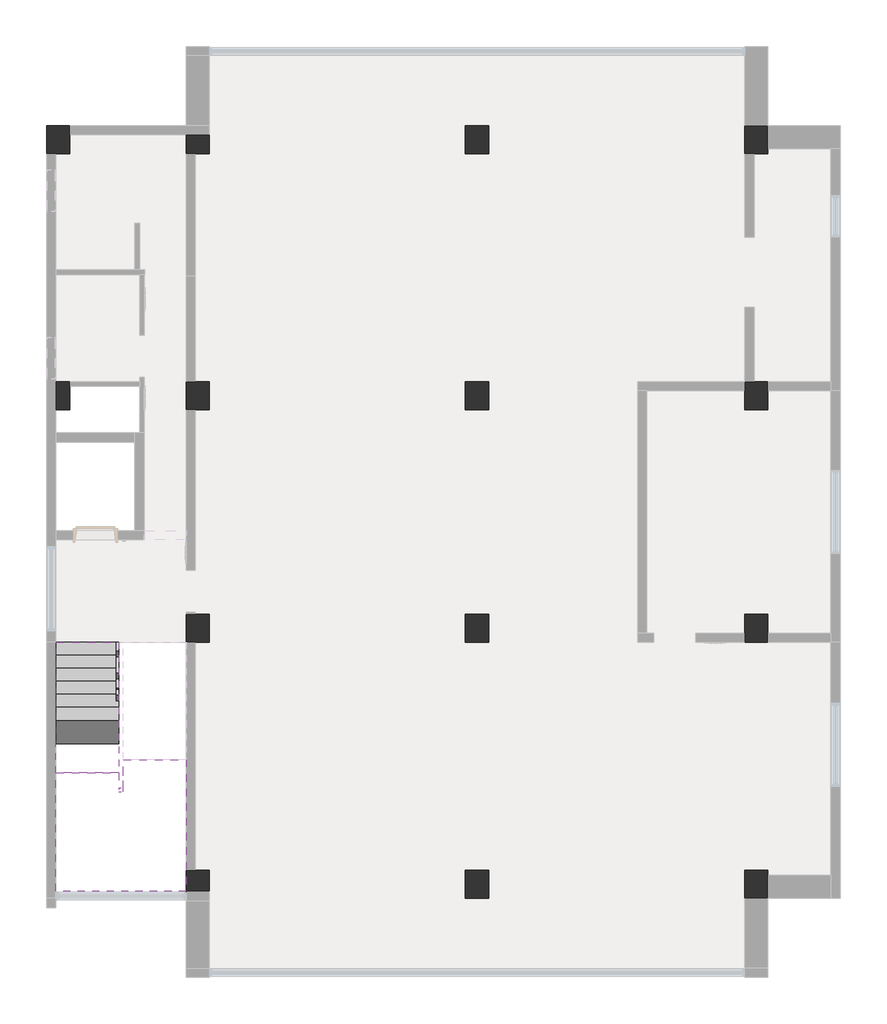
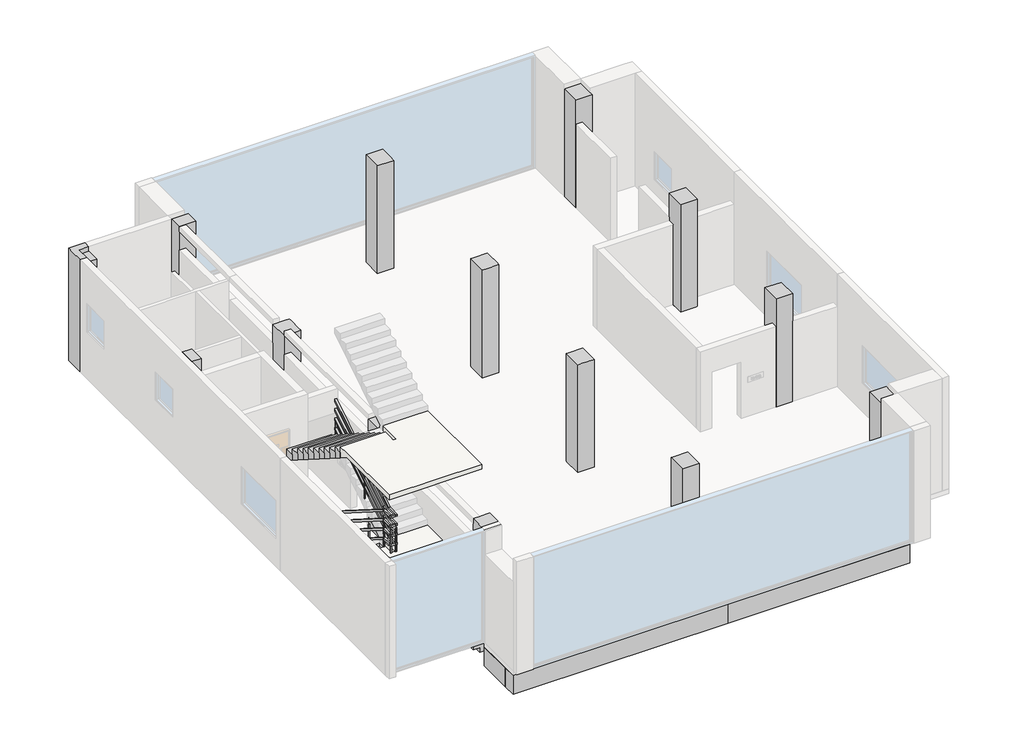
# One storey, part 2 of 3: 32 beams, 14 columns, 2 slabs, 2 stair flights, 1 railing.
"""IFC4 building model written with IfcOpenShell, lengths in millimetres."""

from ifc_helpers import new_model, si_unit, frame, origin, place, context, project, spatial, polyline, outline, extrude, faceted_brep, transform, mapped, element, save
from components import railing_8a41344b

model = new_model("IFC4")

# Units and contexts
model_context = context("Model", 3, world=origin())
ifc_project = project(units=[si_unit("LENGTHUNIT", "METRE", prefix="MILLI")], contexts=[model_context])

# Site, building, storey
site = spatial("IfcSite", under=ifc_project)
building = spatial("IfcBuilding", under=site)
storey = spatial("IfcBuildingStorey", under=building, Name="3층", Elevation=7500.0)

# Beams
placement = place(None, origin())
element("IfcBeam", 1, ObjectType="BM100-구조 보 : BM100-구조 보 400x600", at=placement, inside=storey, context=model_context, shape_type="Brep", body=[
    faceted_brep([(3250.0, 100.0, 7350.0), (3250.0, -300.0, 7350.0), (8750.0, -300.0, 7350.0), (8750.0, 100.0, 7350.0), (5963.2625647, 100.0, 7350.0), (5663.2625647, 100.0, 7350.0), (3250.0, -300.0, 6750.0), (8750.0, -300.0, 6750.0), (3250.0, 100.0, 6750.0), (5663.2625647, 100.0, 6750.0), (5963.2625647, 100.0, 6750.0), (8750.0, 100.0, 6750.0)], [[[0, 1, 2, 3, 4, 5]], [[1, 6, 7, 2]], [[6, 8, 9, 10, 11, 7]], [[8, 0, 5, 4, 3, 11, 10, 9]], [[0, 8, 6, 1]], [[3, 2, 7, 11]]]),
])
element("IfcBeam", 2, ObjectType="BM100-구조 보 : BM100-구조 보 400x600", at=placement, inside=storey, context=model_context, shape_type="Brep", body=[
    faceted_brep([(14750.0, -300.0, 7350.0), (14750.0, 100.0, 7350.0), (11963.2625647, 100.0, 7350.0), (11663.2625647, 100.0, 7350.0), (9250.0, 100.0, 7350.0), (9250.0, -300.0, 7350.0), (14750.0, -300.0, 6750.0), (9250.0, -300.0, 6750.0), (14750.0, 100.0, 6750.0), (9250.0, 100.0, 6750.0), (11663.2625647, 100.0, 6750.0), (11963.2625647, 100.0, 6750.0)], [[[0, 1, 2, 3, 4, 5]], [[6, 0, 5, 7]], [[8, 6, 7, 9, 10, 11]], [[1, 8, 11, 10, 9, 4, 3, 2]], [[1, 0, 6, 8]], [[5, 4, 9, 7]]]),
])
element("IfcBeam", 3, ObjectType="BM100-구조 보 : BM100-구조 보 400x600", at=placement, inside=storey, context=model_context, shape_type="Brep", body=[
    faceted_brep([(14750.0, 5300.0, 7350.0), (14750.0, 5700.0, 7350.0), (11963.2625647, 5700.0, 7350.0), (11663.2625647, 5700.0, 7350.0), (9250.0, 5700.0, 7350.0), (9250.0, 5300.0, 7350.0), (11663.2625647, 5300.0, 7350.0), (11963.2625647, 5300.0, 7350.0), (14750.0, 5300.0, 6750.0), (9250.0, 5300.0, 6750.0), (11663.2625647, 5300.0, 6750.0), (11963.2625647, 5300.0, 6750.0), (14750.0, 5700.0, 6750.0), (9250.0, 5700.0, 6750.0), (11663.2625647, 5700.0, 6750.0), (11963.2625647, 5700.0, 6750.0)], [[[0, 1, 2, 3, 4, 5, 6, 7]], [[8, 0, 7, 6, 5, 9, 10, 11]], [[12, 8, 11, 10, 9, 13, 14, 15]], [[1, 12, 15, 14, 13, 4, 3, 2]], [[1, 0, 8, 12]], [[5, 4, 13, 9]]]),
])
element("IfcBeam", 4, ObjectType="BM100-구조 보 : BM100-구조 보 400x600", at=placement, inside=storey, context=model_context, shape_type="Brep", body=[
    faceted_brep([(14750.0, 10300.0, 7350.0), (14750.0, 10700.0, 7350.0), (11963.2625647, 10700.0, 7350.0), (11663.2625647, 10700.0, 7350.0), (9250.0, 10700.0, 7350.0), (9250.0, 10300.0, 7350.0), (11663.2625647, 10300.0, 7350.0), (11963.2625647, 10300.0, 7350.0), (14750.0, 10300.0, 6750.0), (9250.0, 10300.0, 6750.0), (11663.2625647, 10300.0, 6750.0), (11963.2625647, 10300.0, 6750.0), (14750.0, 10700.0, 6750.0), (9250.0, 10700.0, 6750.0), (11663.2625647, 10700.0, 6750.0), (11963.2625647, 10700.0, 6750.0)], [[[0, 1, 2, 3, 4, 5, 6, 7]], [[8, 0, 7, 6, 5, 9, 10, 11]], [[12, 8, 11, 10, 9, 13, 14, 15]], [[1, 12, 15, 14, 13, 4, 3, 2]], [[1, 0, 8, 12]], [[5, 4, 13, 9]]]),
])
element("IfcBeam", 5, ObjectType="BM100-구조 보 : BM100-구조 보 400x600", at=placement, inside=storey, context=model_context, shape_type="Brep", body=[
    faceted_brep([(14750.0, 15900.0, 7350.0), (14750.0, 16300.0, 7350.0), (9250.0, 16300.0, 7350.0), (9250.0, 15900.0, 7350.0), (11663.2625647, 15900.0, 7350.0), (11963.2625647, 15900.0, 7350.0), (14750.0, 15900.0, 6750.0), (9250.0, 15900.0, 6750.0), (11663.2625647, 15900.0, 6750.0), (11963.2625647, 15900.0, 6750.0), (14750.0, 16300.0, 6750.0), (9250.0, 16300.0, 6750.0)], [[[0, 1, 2, 3, 4, 5]], [[6, 0, 5, 4, 3, 7, 8, 9]], [[10, 6, 9, 8, 7, 11]], [[1, 10, 11, 2]], [[1, 0, 6, 10]], [[3, 2, 11, 7]]]),
])
element("IfcBeam", 6, ObjectType="BM100-구조 보 : BM100-구조 보 400x600", at=placement, inside=storey, context=model_context, shape_type="SweptSolid", body=[
    extrude(outline(polyline([(15250.0, 5800.0), (14850.0, 5800.0), (14850.0, 10200.0), (15250.0, 10200.0), (15250.0, 5800.0)])), frame((0.0, 0.0, 6750.0), z_axis=(0.0, 0.0, 1.0), x_axis=(1.0, 0.0, 0.0)), (0.0, 0.0, 1.0), 600.0),
])
element("IfcBeam", 7, ObjectType="BM100-구조 보 : BM100-구조 보 400x600", at=placement, inside=storey, context=model_context, shape_type="SweptSolid", body=[
    extrude(outline(polyline([(14850.0, 5200.0), (15250.0, 5200.0), (15250.0, 300.0), (14850.0, 300.0), (14850.0, 5200.0)])), frame((0.0, 0.0, 6750.0), z_axis=(0.0, 0.0, 1.0), x_axis=(1.0, 0.0, 0.0)), (0.0, 0.0, 1.0), 600.0),
])
element("IfcBeam", 8, ObjectType="BM100-구조 보 : BM100-구조 보 300x600", at=placement, inside=storey, context=model_context, shape_type="SweptSolid", body=[
    extrude(outline(polyline([(11663.2625647, 5300.0), (11963.2625647, 5300.0), (11963.2625647, 100.0), (11663.2625647, 100.0), (11663.2625647, 5300.0)])), frame((0.0, 0.0, 6750.0), z_axis=(0.0, 0.0, 1.0), x_axis=(1.0, 0.0, 0.0)), (0.0, 0.0, 1.0), 600.0),
])
element("IfcBeam", 9, ObjectType="BM100-구조 보 : BM100-구조 보 300x600", at=placement, inside=storey, context=model_context, shape_type="SweptSolid", body=[
    extrude(outline(polyline([(11963.2625647, 5700.0), (11663.2625647, 5700.0), (11663.2625647, 10300.0), (11963.2625647, 10300.0), (11963.2625647, 5700.0)])), frame((0.0, 0.0, 6750.0), z_axis=(0.0, 0.0, 1.0), x_axis=(1.0, 0.0, 0.0)), (0.0, 0.0, 1.0), 600.0),
])
element("IfcBeam", 10, ObjectType="BM100-구조 보 : BM100-구조 보 300x600", at=placement, inside=storey, context=model_context, shape_type="SweptSolid", body=[
    extrude(outline(polyline([(11963.2625647, 10700.0), (11663.2625647, 10700.0), (11663.2625647, 15900.0), (11963.2625647, 15900.0), (11963.2625647, 10700.0)])), frame((0.0, 0.0, 6750.0), z_axis=(0.0, 0.0, 1.0), x_axis=(1.0, 0.0, 0.0)), (0.0, 0.0, 1.0), 600.0),
])
element("IfcBeam", 11, ObjectType="BM100-구조 보 : BM100-구조 보 400x600", at=placement, inside=storey, context=model_context, shape_type="SweptSolid", body=[
    extrude(outline(polyline([(9250.0, 300.0), (8850.0, 300.0), (8850.0, 5200.0), (9250.0, 5200.0), (9250.0, 300.0)])), frame((0.0, 0.0, 6750.0), z_axis=(0.0, 0.0, 1.0), x_axis=(1.0, 0.0, 0.0)), (0.0, 0.0, 1.0), 600.0),
])
element("IfcBeam", 12, ObjectType="BM100-구조 보 : BM100-구조 보 400x600", at=placement, inside=storey, context=model_context, shape_type="SweptSolid", body=[
    extrude(outline(polyline([(9250.0, 5800.0), (8850.0, 5800.0), (8850.0, 10200.0), (9250.0, 10200.0), (9250.0, 5800.0)])), frame((0.0, 0.0, 6750.0), z_axis=(0.0, 0.0, 1.0), x_axis=(1.0, 0.0, 0.0)), (0.0, 0.0, 1.0), 600.0),
])
element("IfcBeam", 13, ObjectType="BM100-구조 보 : BM100-구조 보 400x600", at=placement, inside=storey, context=model_context, shape_type="SweptSolid", body=[
    extrude(outline(polyline([(9250.0, 10800.0), (8850.0, 10800.0), (8850.0, 15700.0), (9250.0, 15700.0), (9250.0, 10800.0)])), frame((0.0, 0.0, 6750.0), z_axis=(0.0, 0.0, 1.0), x_axis=(1.0, 0.0, 0.0)), (0.0, 0.0, 1.0), 600.0),
])
element("IfcBeam", 14, ObjectType="BM100-구조 보 : BM100-구조 보 400x600", at=placement, inside=storey, context=model_context, shape_type="Brep", body=[
    faceted_brep([(3150.0, 10200.0, 7350.0), (2750.0, 10200.0, 7350.0), (2750.0, 7600.0, 7350.0), (2750.0, 7400.0, 7350.0), (2750.0, 5800.0, 7350.0), (3150.0, 5800.0, 7350.0), (3150.0, 10200.0, 6750.0), (3150.0, 5800.0, 6750.0), (2750.0, 10200.0, 6750.0), (2950.0, 10200.0, 6750.0), (2950.0, 5800.0, 6750.0), (2750.0, 5800.0, 6750.0)], [[[0, 1, 2, 3, 4, 5]], [[6, 0, 5, 7]], [[8, 9, 6, 7, 10, 11]], [[1, 8, 11, 4, 3, 2]], [[1, 0, 6, 9, 8]], [[5, 4, 11, 10, 7]]]),
])
element("IfcBeam", 15, ObjectType="BM100-구조 보 : BM100-구조 보 400x600", at=placement, inside=storey, context=model_context, shape_type="SweptSolid", body=[
    extrude(outline(polyline([(7350.0, 3150.0), (7350.0, 2750.0), (6900.0, 2750.0), (6900.0, 2950.0), (6750.0, 2950.0), (6750.0, 3150.0), (7350.0, 3150.0)])), frame((0.0, 300.0, 0.0), z_axis=(0.0, 1.0, 0.0), x_axis=(0.0, 0.0, 1.0)), (0.0, 0.0, 1.0), 4900.0),
])
element("IfcBeam", 16, ObjectType="BM100-구조 보 : BM100-구조 보 400x600", at=placement, inside=storey, context=model_context, shape_type="SweptSolid", body=[
    extrude(outline(polyline([(7350.0, 3150.0), (7350.0, 2750.0), (6900.0, 2750.0), (6900.0, 2950.0), (6750.0, 2950.0), (6750.0, 3150.0), (7350.0, 3150.0)])), frame((0.0, 10800.0, 0.0), z_axis=(0.0, 1.0, 0.0), x_axis=(0.0, 0.0, 1.0)), (0.0, 0.0, 1.0), 4900.0),
])
element("IfcBeam", 17, ObjectType="BM100-구조 보 : BM100-구조 보 400x600", at=placement, inside=storey, context=model_context, shape_type="Brep", body=[
    faceted_brep([(8750.0, 5300.0, 7350.0), (8750.0, 5700.0, 7350.0), (5963.2625647, 5700.0, 7350.0), (5663.2625647, 5700.0, 7350.0), (3250.0, 5700.0, 7350.0), (3250.0, 5300.0, 7350.0), (5663.2625647, 5300.0, 7350.0), (5963.2625647, 5300.0, 7350.0), (8750.0, 5300.0, 6750.0), (3250.0, 5300.0, 6750.0), (5663.2625647, 5300.0, 6750.0), (5963.2625647, 5300.0, 6750.0), (8750.0, 5700.0, 6750.0), (3250.0, 5700.0, 6750.0), (5663.2625647, 5700.0, 6750.0), (5963.2625647, 5700.0, 6750.0)], [[[0, 1, 2, 3, 4, 5, 6, 7]], [[8, 0, 7, 6, 5, 9, 10, 11]], [[12, 8, 11, 10, 9, 13, 14, 15]], [[1, 12, 15, 14, 13, 4, 3, 2]], [[1, 0, 8, 12]], [[5, 4, 13, 9]]]),
])
element("IfcBeam", 18, ObjectType="BM100-구조 보 : BM100-구조 보 400x600", at=placement, inside=storey, context=model_context, shape_type="Brep", body=[
    faceted_brep([(8750.0, 10300.0, 7350.0), (8750.0, 10700.0, 7350.0), (5963.2625647, 10700.0, 7350.0), (5663.2625647, 10700.0, 7350.0), (3250.0, 10700.0, 7350.0), (3250.0, 10300.0, 7350.0), (5663.2625647, 10300.0, 7350.0), (5963.2625647, 10300.0, 7350.0), (8750.0, 10300.0, 6750.0), (3250.0, 10300.0, 6750.0), (5663.2625647, 10300.0, 6750.0), (5963.2625647, 10300.0, 6750.0), (8750.0, 10700.0, 6750.0), (3250.0, 10700.0, 6750.0), (5663.2625647, 10700.0, 6750.0), (5963.2625647, 10700.0, 6750.0)], [[[0, 1, 2, 3, 4, 5, 6, 7]], [[8, 0, 7, 6, 5, 9, 10, 11]], [[12, 8, 11, 10, 9, 13, 14, 15]], [[1, 12, 15, 14, 13, 4, 3, 2]], [[1, 0, 8, 12]], [[5, 4, 13, 9]]]),
])
element("IfcBeam", 19, ObjectType="BM100-구조 보 : BM100-구조 보 300x600", at=placement, inside=storey, context=model_context, shape_type="SweptSolid", body=[
    extrude(outline(polyline([(5663.2625647, 5300.0), (5963.2625647, 5300.0), (5963.2625647, 100.0), (5663.2625647, 100.0), (5663.2625647, 5300.0)])), frame((0.0, 0.0, 6750.0), z_axis=(0.0, 0.0, 1.0), x_axis=(1.0, 0.0, 0.0)), (0.0, 0.0, 1.0), 600.0),
])
element("IfcBeam", 20, ObjectType="BM100-구조 보 : BM100-구조 보 300x600", at=placement, inside=storey, context=model_context, shape_type="SweptSolid", body=[
    extrude(outline(polyline([(5963.2625647, 5700.0), (5663.2625647, 5700.0), (5663.2625647, 10300.0), (5963.2625647, 10300.0), (5963.2625647, 5700.0)])), frame((0.0, 0.0, 6750.0), z_axis=(0.0, 0.0, 1.0), x_axis=(1.0, 0.0, 0.0)), (0.0, 0.0, 1.0), 600.0),
])
element("IfcBeam", 21, ObjectType="BM100-구조 보 : BM100-구조 보 300x600", at=placement, inside=storey, context=model_context, shape_type="SweptSolid", body=[
    extrude(outline(polyline([(5963.2625647, 10700.0), (5663.2625647, 10700.0), (5663.2625647, 15900.0), (5963.2625647, 15900.0), (5963.2625647, 10700.0)])), frame((0.0, 0.0, 6750.0), z_axis=(0.0, 0.0, 1.0), x_axis=(1.0, 0.0, 0.0)), (0.0, 0.0, 1.0), 600.0),
])
element("IfcBeam", 22, ObjectType="BM100-구조 보 : BM100-구조 보 400x600", at=placement, inside=storey, context=model_context, shape_type="Brep", body=[
    faceted_brep([(3250.0, 16300.0, 7350.0), (3250.0, 16100.0, 7350.0), (3250.0, 15900.0, 7350.0), (5663.2625647, 15900.0, 7350.0), (5963.2625647, 15900.0, 7350.0), (8750.0, 15900.0, 7350.0), (8750.0, 16300.0, 7350.0), (3250.0, 15900.0, 6750.0), (5663.2625647, 15900.0, 6750.0), (5963.2625647, 15900.0, 6750.0), (8750.0, 15900.0, 6750.0), (3250.0, 16300.0, 6750.0), (8750.0, 16300.0, 6750.0)], [[[0, 1, 2, 3, 4, 5, 6]], [[2, 7, 8, 9, 10, 5, 4, 3]], [[7, 11, 12, 10, 9, 8]], [[11, 0, 6, 12]], [[0, 11, 7, 2, 1]], [[6, 5, 10, 12]]]),
])
element("IfcBeam", 23, ObjectType="BM100-구조 보 : BM100-구조 보 400x600", at=placement, inside=storey, context=model_context, shape_type="SweptSolid", body=[
    extrude(outline(polyline([(14850.0, 15700.0), (15250.0, 15700.0), (15250.0, 10800.0), (14850.0, 10800.0), (14850.0, 15700.0)])), frame((0.0, 0.0, 6750.0), z_axis=(0.0, 0.0, 1.0), x_axis=(1.0, 0.0, 0.0)), (0.0, 0.0, 1.0), 600.0),
])
element("IfcBeam", 24, ObjectType="BM100-구조 보 : BM100-구조 보 400x600", at=placement, inside=storey, context=model_context, shape_type="SweptSolid", body=[
    extrude(outline(polyline([(3150.0, -1400.0), (2750.0, -1400.0), (2750.0, -300.0), (3150.0, -300.0), (3150.0, -1400.0)])), frame((0.0, 0.0, 6750.0), z_axis=(0.0, 0.0, 1.0), x_axis=(1.0, 0.0, 0.0)), (0.0, 0.0, 1.0), 600.0),
])
element("IfcBeam", 25, ObjectType="BM100-구조 보 : BM100-구조 보 400x600", at=placement, inside=storey, context=model_context, shape_type="Brep", body=[
    faceted_brep([(9250.0, -1800.0, 7350.0), (9250.0, -1400.0, 7350.0), (8850.0, -1400.0, 7350.0), (3150.0, -1400.0, 7350.0), (2750.0, -1400.0, 7350.0), (2750.0, -1800.0, 7350.0), (9250.0, -1800.0, 6750.0), (2750.0, -1800.0, 6750.0), (3250.0, -1800.0, 6750.0), (9250.0, -1400.0, 6750.0), (2750.0, -1400.0, 6750.0), (3150.0, -1400.0, 6750.0), (8850.0, -1400.0, 6750.0)], [[[0, 1, 2, 3, 4, 5]], [[6, 0, 5, 7, 8]], [[9, 6, 8, 7, 10, 11, 12]], [[1, 9, 12, 11, 10, 4, 3, 2]], [[1, 0, 6, 9]], [[5, 4, 10, 7]]]),
])
element("IfcBeam", 26, ObjectType="BM100-구조 보 : BM100-구조 보 400x600", at=placement, inside=storey, context=model_context, shape_type="SweptSolid", body=[
    extrude(outline(polyline([(9250.0, -1400.0), (8850.0, -1400.0), (8850.0, -300.0), (9250.0, -300.0), (9250.0, -1400.0)])), frame((0.0, 0.0, 6750.0), z_axis=(0.0, 0.0, 1.0), x_axis=(1.0, 0.0, 0.0)), (0.0, 0.0, 1.0), 600.0),
])
element("IfcBeam", 27, ObjectType="BM100-구조 보 : BM100-구조 보 400x600", at=placement, inside=storey, context=model_context, shape_type="SweptSolid", body=[
    extrude(outline(polyline([(9250.0, -1800.0), (9250.0, -1400.0), (14750.0, -1400.0), (14750.0, -1800.0), (9250.0, -1800.0)])), frame((0.0, 0.0, 6750.0), z_axis=(0.0, 0.0, 1.0), x_axis=(1.0, 0.0, 0.0)), (0.0, 0.0, 1.0), 600.0),
])
element("IfcBeam", 28, ObjectType="BM100-구조 보 : BM100-구조 보 400x600", at=placement, inside=storey, context=model_context, shape_type="SweptSolid", body=[
    extrude(outline(polyline([(15250.0, 5300.0), (15250.0, 5700.0), (16600.0, 5700.0), (16600.0, 5300.0), (15250.0, 5300.0)])), frame((0.0, 0.0, 6750.0), z_axis=(0.0, 0.0, 1.0), x_axis=(1.0, 0.0, 0.0)), (0.0, 0.0, 1.0), 600.0),
])
element("IfcBeam", 29, ObjectType="BM100-구조 보 : BM100-구조 보 400x600", at=placement, inside=storey, context=model_context, shape_type="SweptSolid", body=[
    extrude(outline(polyline([(15250.0, 10300.0), (15250.0, 10700.0), (16600.0, 10700.0), (16600.0, 10300.0), (15250.0, 10300.0)])), frame((0.0, 0.0, 6750.0), z_axis=(0.0, 0.0, 1.0), x_axis=(1.0, 0.0, 0.0)), (0.0, 0.0, 1.0), 600.0),
])
element("IfcBeam", 30, ObjectType="BM100-구조 보 : BM100-구조 보 400x600", at=placement, inside=storey, context=model_context, shape_type="Brep", body=[
    faceted_brep([(8850.0, 17800.0, 7350.0), (8850.0, 17400.0, 7350.0), (9250.0, 17400.0, 7350.0), (14750.0, 17400.0, 7350.0), (14750.0, 17800.0, 7350.0), (8850.0, 17400.0, 6750.0), (9250.0, 17400.0, 6750.0), (14750.0, 17400.0, 6750.0), (8850.0, 17800.0, 6750.0), (14750.0, 17800.0, 6750.0)], [[[0, 1, 2, 3, 4]], [[1, 5, 6, 7, 3, 2]], [[5, 8, 9, 7, 6]], [[8, 0, 4, 9]], [[1, 0, 8, 5]], [[4, 3, 7, 9]]]),
])
element("IfcBeam", 31, ObjectType="BM100-구조 보 : BM100-구조 보 400x600", at=placement, inside=storey, context=model_context, shape_type="SweptSolid", body=[
    extrude(outline(polyline([(9250.0, 16300.0), (8850.0, 16300.0), (8850.0, 17400.0), (9250.0, 17400.0), (9250.0, 16300.0)])), frame((0.0, 0.0, 6750.0), z_axis=(0.0, 0.0, 1.0), x_axis=(1.0, 0.0, 0.0)), (0.0, 0.0, 1.0), 600.0),
])
element("IfcBeam", 32, ObjectType="BM100-구조 보 : BM100-구조 보 400x600", at=placement, inside=storey, context=model_context, shape_type="SweptSolid", body=[
    extrude(outline(polyline([(8850.0, 17800.0), (8850.0, 17400.0), (3250.0, 17400.0), (3250.0, 17800.0), (8850.0, 17800.0)])), frame((0.0, 0.0, 6750.0), z_axis=(0.0, 0.0, 1.0), x_axis=(1.0, 0.0, 0.0)), (0.0, 0.0, 1.0), 600.0),
])

# Columns
element("IfcColumn", 33, ObjectType="CL100-구조 기둥 : CL100-구조 기둥_500x600", at=placement, inside=storey, context=model_context, shape_type="SweptSolid", body=[
    extrude(outline(polyline([(10800.0, 7500.0), (10200.0, 7500.0), (10200.0, 11100.0), (10700.0, 11100.0), (10700.0, 10950.0), (10800.0, 10950.0), (10800.0, 7500.0)])), frame((-50.0, 0.0, 0.0), z_axis=(1.0, 0.0, 0.0), x_axis=(0.0, 1.0, 0.0)), (0.0, 0.0, 1.0), 300.0),
])
element("IfcColumn", 34, ObjectType="CL100-구조 기둥 : CL100-구조 기둥_500x600", at=placement, inside=storey, context=model_context, shape_type="Brep", body=[
    faceted_brep([(2750.0, -300.0, 7500.0), (2750.0, 300.0, 7500.0), (2950.0, 300.0, 7500.0), (3250.0, 300.0, 7500.0), (3250.0, -300.0, 7500.0), (2750.0, -300.0, 11100.0), (2750.0, 300.0, 11100.0), (2750.0, 300.0, 10950.0), (2750.0, 300.0, 10350.0), (2750.0, -300.0, 10950.0), (2950.0, 300.0, 11100.0), (3250.0, 300.0, 11100.0), (3250.0, 300.0, 10950.0), (3250.0, -150.0, 11100.0), (3250.0, -300.0, 11100.0), (3250.0, -300.0, 10950.0)], [[[0, 1, 2, 3, 4]], [[5, 6, 7, 8, 1, 0, 9]], [[6, 10, 11, 12, 3, 2, 1, 8, 7]], [[11, 13, 14, 15, 4, 3, 12]], [[14, 5, 9, 0, 4, 15]], [[5, 14, 13, 11, 10, 6]]]),
])
element("IfcColumn", 35, ObjectType="CL100-구조 기둥 : CL100-구조 기둥_500x600", at=placement, inside=storey, context=model_context, shape_type="Brep", body=[
    faceted_brep([(8750.0, -300.0, 7500.0), (8750.0, 300.0, 7500.0), (9250.0, 300.0, 7500.0), (9250.0, -300.0, 7500.0), (8750.0, -300.0, 10350.0), (8750.0, -300.0, 10950.0), (8750.0, 100.0, 10950.0), (8750.0, 300.0, 10950.0), (8850.0, 300.0, 10950.0), (9250.0, 300.0, 10950.0), (9250.0, 300.0, 10350.0), (9250.0, 100.0, 10950.0), (9250.0, -300.0, 10950.0), (9250.0, -300.0, 10350.0)], [[[0, 1, 2, 3]], [[1, 0, 4, 5, 6, 7]], [[2, 1, 7, 8, 9, 10]], [[3, 2, 10, 9, 11, 12, 13]], [[0, 3, 13, 12, 5, 4]], [[7, 6, 5, 12, 11, 9, 8]]]),
])
element("IfcColumn", 36, ObjectType="CL100-구조 기둥 : CL100-구조 기둥_500x600", at=placement, inside=storey, context=model_context, shape_type="Brep", body=[
    faceted_brep([(2750.0, 5200.0, 7500.0), (2750.0, 5800.0, 7500.0), (2950.0, 5800.0, 7500.0), (3250.0, 5800.0, 7500.0), (3250.0, 5200.0, 7500.0), (2950.0, 5200.0, 7500.0), (2750.0, 5200.0, 10350.0), (2750.0, 5200.0, 10950.0), (2750.0, 5800.0, 10950.0), (2750.0, 5800.0, 10350.0), (3150.0, 5800.0, 10950.0), (3250.0, 5800.0, 10950.0), (3250.0, 5700.0, 10950.0), (3250.0, 5300.0, 10950.0), (3250.0, 5200.0, 10950.0), (3150.0, 5200.0, 10950.0)], [[[0, 1, 2, 3, 4, 5]], [[1, 0, 6, 7, 8, 9]], [[3, 2, 1, 9, 8, 10, 11]], [[4, 3, 11, 12, 13, 14]], [[0, 5, 4, 14, 15, 7, 6]], [[8, 7, 15, 14, 13, 12, 11, 10]]]),
])
element("IfcColumn", 37, ObjectType="CL100-구조 기둥 : CL100-구조 기둥_500x600", at=placement, inside=storey, context=model_context, shape_type="Brep", body=[
    faceted_brep([(2750.0, 10200.0, 7500.0), (2750.0, 10800.0, 7500.0), (3250.0, 10800.0, 7500.0), (3250.0, 10200.0, 7500.0), (2950.0, 10200.0, 7500.0), (2750.0, 10200.0, 10350.0), (2750.0, 10200.0, 10950.0), (2750.0, 10800.0, 10950.0), (2750.0, 10800.0, 10350.0), (3150.0, 10800.0, 10950.0), (3250.0, 10800.0, 10950.0), (3250.0, 10700.0, 10950.0), (3250.0, 10300.0, 10950.0), (3250.0, 10200.0, 10950.0), (3150.0, 10200.0, 10950.0)], [[[0, 1, 2, 3, 4]], [[1, 0, 5, 6, 7, 8]], [[2, 1, 8, 7, 9, 10]], [[3, 2, 10, 11, 12, 13]], [[0, 4, 3, 13, 14, 6, 5]], [[7, 6, 14, 13, 12, 11, 10, 9]]]),
])
element("IfcColumn", 38, ObjectType="CL100-구조 기둥 : CL100-구조 기둥_500x600", at=placement, inside=storey, context=model_context, shape_type="Brep", body=[
    faceted_brep([(8750.0, 5200.0, 7500.0), (8750.0, 5800.0, 7500.0), (9250.0, 5800.0, 7500.0), (9250.0, 5200.0, 7500.0), (8750.0, 5200.0, 10950.0), (8750.0, 5800.0, 10950.0), (8850.0, 5800.0, 10950.0), (9250.0, 5800.0, 10950.0), (9250.0, 5800.0, 10350.0), (9250.0, 5700.0, 10950.0), (9250.0, 5300.0, 10950.0), (9250.0, 5200.0, 10950.0), (9250.0, 5200.0, 10350.0), (8850.0, 5200.0, 10950.0)], [[[0, 1, 2, 3]], [[1, 0, 4, 5]], [[2, 1, 5, 6, 7, 8]], [[3, 2, 8, 7, 9, 10, 11, 12]], [[0, 3, 12, 11, 13, 4]], [[5, 4, 13, 11, 10, 9, 7, 6]]]),
])
element("IfcColumn", 39, ObjectType="CL100-구조 기둥 : CL100-구조 기둥_500x600", at=placement, inside=storey, context=model_context, shape_type="Brep", body=[
    faceted_brep([(8750.0, 10200.0, 7500.0), (8750.0, 10800.0, 7500.0), (9250.0, 10800.0, 7500.0), (9250.0, 10200.0, 7500.0), (8750.0, 10200.0, 10950.0), (8750.0, 10800.0, 10950.0), (8850.0, 10800.0, 10950.0), (9250.0, 10800.0, 10950.0), (9250.0, 10800.0, 10350.0), (9250.0, 10700.0, 10950.0), (9250.0, 10300.0, 10950.0), (9250.0, 10200.0, 10950.0), (9250.0, 10200.0, 10350.0), (8850.0, 10200.0, 10950.0)], [[[0, 1, 2, 3]], [[1, 0, 4, 5]], [[2, 1, 5, 6, 7, 8]], [[3, 2, 8, 7, 9, 10, 11, 12]], [[0, 3, 12, 11, 13, 4]], [[5, 4, 13, 11, 10, 9, 7, 6]]]),
])
element("IfcColumn", 40, ObjectType="CL100-구조 기둥 : CL100-구조 기둥_500x600", at=placement, inside=storey, context=model_context, shape_type="SweptSolid", body=[
    extrude(outline(polyline([(14750.0, 5200.0), (14750.0, 5800.0), (15250.0, 5800.0), (15250.0, 5200.0), (14750.0, 5200.0)])), frame((0.0, 0.0, 7500.0), z_axis=(0.0, 0.0, 1.0), x_axis=(1.0, 0.0, 0.0)), (0.0, 0.0, 1.0), 3450.0),
])
element("IfcColumn", 41, ObjectType="CL100-구조 기둥 : CL100-구조 기둥_500x600", at=placement, inside=storey, context=model_context, shape_type="Brep", body=[
    faceted_brep([(14750.0, 10200.0, 7500.0), (14750.0, 10600.0, 7500.0), (14750.0, 10800.0, 7500.0), (14950.0, 10800.0, 7500.0), (15250.0, 10800.0, 7500.0), (15250.0, 10200.0, 7500.0), (14750.0, 10200.0, 10950.0), (14750.0, 10800.0, 10950.0), (14750.0, 10800.0, 10182.0), (14750.0, 10800.0, 10068.0), (15250.0, 10800.0, 10950.0), (15250.0, 10200.0, 10950.0)], [[[0, 1, 2, 3, 4, 5]], [[2, 1, 0, 6, 7, 8, 9]], [[4, 3, 2, 9, 8, 7, 10]], [[5, 4, 10, 11]], [[0, 5, 11, 6]], [[7, 6, 11, 10]]]),
])
element("IfcColumn", 42, ObjectType="CL100-구조 기둥 : CL100-구조 기둥_500x600", at=placement, inside=storey, context=model_context, shape_type="Brep", body=[
    faceted_brep([(3250.0, 15700.0, 7500.0), (2750.0, 15700.0, 7500.0), (2750.0, 16100.0, 7500.0), (3250.0, 16100.0, 7500.0), (2750.0, 15700.0, 10350.0), (2750.0, 15700.0, 10950.0), (2750.0, 15700.0, 11100.0), (2750.0, 16100.0, 11100.0), (2750.0, 16100.0, 10950.0), (3250.0, 15700.0, 11100.0), (3250.0, 15700.0, 10950.0), (3250.0, 16100.0, 10950.0), (3250.0, 16100.0, 11100.0)], [[[0, 1, 2, 3]], [[1, 4, 5, 6, 7, 8, 2]], [[9, 10, 0, 3, 11, 12]], [[1, 0, 10, 9, 6, 5, 4]], [[6, 9, 12, 7]], [[3, 2, 8, 7, 12, 11]]]),
])
element("IfcColumn", 43, ObjectType="CL100-구조 기둥 : CL100-구조 기둥_500x600", at=placement, inside=storey, context=model_context, shape_type="Brep", body=[
    faceted_brep([(8750.0, 15700.0, 7500.0), (8750.0, 16300.0, 7500.0), (9250.0, 16300.0, 7500.0), (9250.0, 15700.0, 7500.0), (8750.0, 15700.0, 10950.0), (8750.0, 15900.0, 10950.0), (8750.0, 16300.0, 10950.0), (8750.0, 16300.0, 10350.0), (9250.0, 16300.0, 10950.0), (9250.0, 16300.0, 10350.0), (9250.0, 15900.0, 10950.0), (9250.0, 15700.0, 10950.0), (9250.0, 15700.0, 10350.0), (8850.0, 15700.0, 10950.0)], [[[0, 1, 2, 3]], [[1, 0, 4, 5, 6, 7]], [[2, 1, 7, 6, 8, 9]], [[3, 2, 9, 8, 10, 11, 12]], [[0, 3, 12, 11, 13, 4]], [[6, 5, 4, 13, 11, 10, 8]]]),
])
element("IfcColumn", 44, ObjectType="CL100-구조 기둥 : CL100-구조 기둥_500x600", at=placement, inside=storey, context=model_context, shape_type="Brep", body=[
    faceted_brep([(14750.0, 15700.0, 7500.0), (14750.0, 16300.0, 7500.0), (15250.0, 16300.0, 7500.0), (15250.0, 15800.0, 7500.0), (15250.0, 15700.0, 7500.0), (14950.0, 15700.0, 7500.0), (14750.0, 15700.0, 10182.0), (14750.0, 15700.0, 10950.0), (14750.0, 16300.0, 10950.0), (15250.0, 16300.0, 10950.0), (15250.0, 15700.0, 10950.0)], [[[0, 1, 2, 3, 4, 5]], [[1, 0, 6, 7, 8]], [[2, 1, 8, 9]], [[4, 3, 2, 9, 10]], [[0, 5, 4, 10, 7, 6]], [[8, 7, 10, 9]]]),
])
element("IfcColumn", 45, ObjectType="CL100-구조 기둥 : CL100-구조 기둥_500x600", at=placement, inside=storey, context=model_context, shape_type="Brep", body=[
    faceted_brep([(-250.0, 15700.0, 7500.0), (-250.0, 16300.0, 7500.0), (250.0, 16300.0, 7500.0), (250.0, 16100.0, 7500.0), (250.0, 15700.0, 7500.0), (-50.0, 15700.0, 7500.0), (-250.0, 15700.0, 11100.0), (-250.0, 16100.0, 11100.0), (-250.0, 16300.0, 11100.0), (250.0, 16300.0, 11100.0), (250.0, 16100.0, 11100.0), (250.0, 16100.0, 10950.0), (250.0, 15700.0, 10950.0), (-50.0, 15700.0, 10950.0), (-50.0, 15700.0, 11100.0), (-50.0, 16100.0, 11100.0), (-50.0, 16100.0, 10950.0)], [[[0, 1, 2, 3, 4, 5]], [[1, 0, 6, 7, 8]], [[2, 1, 8, 9]], [[4, 3, 2, 9, 10, 11, 12]], [[0, 5, 4, 12, 13, 14, 6]], [[8, 7, 6, 14, 15, 10, 9]], [[11, 16, 13, 12]], [[16, 15, 14, 13]], [[15, 16, 11, 10]]]),
])
element("IfcColumn", 46, ObjectType="CL100-구조 기둥 : CL100-구조 기둥_500x600", at=placement, inside=storey, context=model_context, shape_type="Brep", body=[
    faceted_brep([(14750.0, -300.0, 7500.0), (14750.0, 200.0, 7500.0), (14750.0, 300.0, 7500.0), (15250.0, 300.0, 7500.0), (15250.0, 200.0, 7500.0), (15250.0, -300.0, 7500.0), (14750.0, -300.0, 10950.0), (14750.0, 300.0, 10950.0), (15250.0, 300.0, 10950.0), (15250.0, -300.0, 10950.0)], [[[0, 1, 2, 3, 4, 5]], [[2, 1, 0, 6, 7]], [[3, 2, 7, 8]], [[5, 4, 3, 8, 9]], [[0, 5, 9, 6]], [[7, 6, 9, 8]]]),
])

# Railing
railing_shape = railing_8a41344b(model_context)
element("IfcRailing", 47, ObjectType="RL780-금속재 난간", at=placement, inside=storey, context=model_context, shape_type="MappedRepresentation", body=[
    mapped(railing_shape, transform((0.0, 0.0, 0.0), x_axis=(1.0, 0.0, 0.0), y_axis=(0.0, 1.0, 0.0), z_axis=(0.0, 0.0, 1.0))),
])

# Slabs
element("IfcSlab", 48, ObjectType="일체형 계단참 150mm_철근콘크리트", at=placement, inside=storey, context=model_context, shape_type="Brep", body=[
    faceted_brep([(1300.2430136, 2400.0, 9450.0), (-50.0, 2400.0, 9450.0), (-50.0, 2076.5081266, 9450.0), (-50.0, -150.0, 9450.0), (2750.0, -150.0, 9450.0), (2750.0, 2680.0, 9450.0), (1400.2430136, 2680.0, 9450.0), (1400.2430136, 2071.4869752, 9450.0), (1300.2430136, 2071.4869752, 9450.0), (1300.2430136, 2076.5081266, 9450.0), (-50.0, 2400.0, 9272.7272727), (-50.0, 2400.0, 9095.1918334), (-50.0, 2076.5081266, 9300.0), (-50.0, -150.0, 9300.0), (2750.0, -150.0, 9300.0), (1400.2430136, 2680.0, 9300.0), (1400.2430136, 2071.4869752, 9300.0), (1300.2430136, 2071.4869752, 9300.0), (1300.2430136, 2076.5081266, 9300.0), (2750.0, 2680.0, 9300.0), (1300.2430136, 2400.0, 9095.1918334), (1300.2430136, 2400.0, 9272.7272727)], [[[0, 1, 2, 3, 4, 5, 6, 7, 8, 9]], [[1, 10, 11, 12, 13, 3, 2]], [[4, 3, 13, 14]], [[7, 6, 15, 16]], [[8, 7, 16, 17]], [[12, 18, 17, 16, 15, 19, 14, 13]], [[18, 12, 11, 20]], [[20, 21, 0, 9, 8, 17, 18]], [[1, 0, 21, 20, 11, 10]], [[5, 4, 14, 19]], [[6, 5, 19, 15]]]),
])
element("IfcSlab", 49, ObjectType="일체형 계단참 150mm_철근콘크리트", at=placement, inside=storey, context=model_context, shape_type="Brep", body=[
    faceted_brep([(1300.2430136, 2400.0, 13104.5454545), (-50.0, 2400.0, 13104.5454545), (-50.0, 2076.5081266, 13104.5454545), (-50.0, -150.0, 13104.5454545), (2750.0, -150.0, 13104.5454545), (2750.0, 2680.0, 13104.5454545), (1400.2430136, 2680.0, 13104.5454545), (1400.2430136, 1987.8980432, 13104.5454545), (1300.2430136, 1987.8980432, 13104.5454545), (1300.2430136, 2076.5081266, 13104.5454545), (-50.0, 2400.0, 12927.2727273), (-50.0, 2400.0, 12749.7372879), (-50.0, 2076.5081266, 12954.5454545), (-50.0, -150.0, 12954.5454545), (2750.0, -150.0, 12954.5454545), (1400.2430136, 2680.0, 12954.5454545), (1400.2430136, 1987.8980432, 12954.5454545), (1300.2430136, 1987.8980432, 12954.5454545), (1300.2430136, 2076.5081266, 12954.5454545), (2750.0, 2680.0, 12954.5454545), (1300.2430136, 2400.0, 12749.7372879), (1300.2430136, 2400.0, 12927.2727273)], [[[0, 1, 2, 3, 4, 5, 6, 7, 8, 9]], [[1, 10, 11, 12, 13, 3, 2]], [[4, 3, 13, 14]], [[7, 6, 15, 16]], [[8, 7, 16, 17]], [[12, 18, 17, 16, 15, 19, 14, 13]], [[18, 12, 11, 20]], [[20, 21, 0, 9, 8, 17, 18]], [[1, 0, 21, 20, 11, 10]], [[5, 4, 14, 19]], [[6, 5, 19, 15]]]),
])

# Stair flights
element("IfcStairFlight", 50, ObjectType="일체형 계단진행 150mm_철근콘크리트", at=placement, inside=storey, context=model_context, shape_type="Brep", body=[
    faceted_brep([(1300.2430136, 4920.0, 7677.2727273), (1300.2430136, 5200.0, 7677.2727273), (-50.0, 5200.0, 7677.2727273), (-50.0, 4920.0, 7677.2727273), (1300.2430136, 4920.0, 7500.0), (1300.2430136, 5200.0, 7500.0), (-50.0, 5200.0, 7500.0), (-50.0, 4920.0, 7500.0), (1300.2430136, 4640.0, 7854.5454545), (1300.2430136, 4920.0, 7854.5454545), (-50.0, 4920.0, 7854.5454545), (-50.0, 4640.0, 7854.5454545), (1300.2430136, 4640.0, 7677.0100152), (1300.2430136, 4919.5850497, 7500.0), (-50.0, 4919.5850497, 7500.0), (-50.0, 4640.0, 7677.0100152), (1300.2430136, 4360.0, 8031.8181818), (1300.2430136, 4640.0, 8031.8181818), (-50.0, 4640.0, 8031.8181818), (-50.0, 4360.0, 8031.8181818), (1300.2430136, 4360.0, 7854.2827425), (-50.0, 4360.0, 7854.2827425), (1300.2430136, 4080.0, 8209.0909091), (1300.2430136, 4360.0, 8209.0909091), (-50.0, 4360.0, 8209.0909091), (-50.0, 4080.0, 8209.0909091), (1300.2430136, 4080.0, 8031.5554697), (-50.0, 4080.0, 8031.5554697), (1300.2430136, 3800.0, 8386.3636364), (1300.2430136, 4080.0, 8386.3636364), (-50.0, 4080.0, 8386.3636364), (-50.0, 3800.0, 8386.3636364), (1300.2430136, 3800.0, 8208.828197), (-50.0, 3800.0, 8208.828197), (1300.2430136, 3520.0, 8563.6363636), (1300.2430136, 3800.0, 8563.6363636), (-50.0, 3800.0, 8563.6363636), (-50.0, 3520.0, 8563.6363636), (1300.2430136, 3520.0, 8386.1009243), (-50.0, 3520.0, 8386.1009243), (1300.2430136, 3240.0, 8740.9090909), (1300.2430136, 3520.0, 8740.9090909), (-50.0, 3520.0, 8740.9090909), (-50.0, 3240.0, 8740.9090909), (1300.2430136, 3240.0, 8563.3736516), (-50.0, 3240.0, 8563.3736516), (1300.2430136, 2960.0, 8918.1818182), (1300.2430136, 3240.0, 8918.1818182), (-50.0, 3240.0, 8918.1818182), (-50.0, 2960.0, 8918.1818182), (1300.2430136, 2960.0, 8740.6463788), (-50.0, 2960.0, 8740.6463788), (1300.2430136, 2680.0, 9095.4545455), (1300.2430136, 2960.0, 9095.4545455), (-50.0, 2960.0, 9095.4545455), (-50.0, 2680.0, 9095.4545455), (1300.2430136, 2680.0, 8917.9191061), (-50.0, 2680.0, 8917.9191061), (1300.2430136, 2400.0, 9272.7272727), (1300.2430136, 2680.0, 9272.7272727), (-50.0, 2680.0, 9272.7272727), (-50.0, 2400.0, 9272.7272727), (1300.2430136, 2400.0, 9095.1918334), (-50.0, 2400.0, 9095.1918334)], [[[0, 1, 2, 3]], [[1, 0, 4, 5]], [[2, 1, 5, 6]], [[3, 2, 6, 7]], [[8, 9, 10, 11]], [[4, 0, 9, 8, 12, 13]], [[0, 3, 10, 9]], [[3, 7, 14, 15, 11, 10]], [[16, 17, 18, 19]], [[17, 16, 20, 12, 8]], [[8, 11, 18, 17]], [[19, 18, 11, 15, 21]], [[22, 23, 24, 25]], [[23, 22, 26, 20, 16]], [[16, 19, 24, 23]], [[25, 24, 19, 21, 27]], [[28, 29, 30, 31]], [[29, 28, 32, 26, 22]], [[22, 25, 30, 29]], [[31, 30, 25, 27, 33]], [[34, 35, 36, 37]], [[35, 34, 38, 32, 28]], [[28, 31, 36, 35]], [[37, 36, 31, 33, 39]], [[40, 41, 42, 43]], [[41, 40, 44, 38, 34]], [[34, 37, 42, 41]], [[43, 42, 37, 39, 45]], [[46, 47, 48, 49]], [[47, 46, 50, 44, 40]], [[40, 43, 48, 47]], [[49, 48, 43, 45, 51]], [[52, 53, 54, 55]], [[53, 52, 56, 50, 46]], [[46, 49, 54, 53]], [[55, 54, 49, 51, 57]], [[58, 59, 60, 61]], [[59, 58, 62, 56, 52]], [[52, 55, 60, 59]], [[61, 60, 55, 57, 63]], [[58, 61, 63, 62]], [[5, 4, 13, 14, 7, 6]], [[14, 13, 12, 20, 26, 32, 38, 44, 50, 56, 62, 63, 57, 51, 45, 39, 33, 27, 21, 15]]]),
])
element("IfcStairFlight", 51, ObjectType="일체형 계단진행 150mm_철근콘크리트", at=placement, inside=storey, context=model_context, shape_type="Brep", body=[
    faceted_brep([(1300.2430136, 4920.0, 11331.8181818), (1300.2430136, 5200.0, 11331.8181818), (-50.0, 5200.0, 11331.8181818), (-50.0, 4920.0, 11331.8181818), (1300.2430136, 4920.0, 11154.2827425), (1300.2430136, 5200.0, 10977.0100152), (-50.0, 5200.0, 10977.0100152), (-50.0, 4920.0, 11154.2827425), (1300.2430136, 4640.0, 11509.0909091), (1300.2430136, 4920.0, 11509.0909091), (-50.0, 4920.0, 11509.0909091), (-50.0, 4640.0, 11509.0909091), (1300.2430136, 4640.0, 11331.5554697), (-50.0, 4640.0, 11331.5554697), (1300.2430136, 4360.0, 11686.3636364), (1300.2430136, 4640.0, 11686.3636364), (-50.0, 4640.0, 11686.3636364), (-50.0, 4360.0, 11686.3636364), (1300.2430136, 4360.0, 11508.828197), (-50.0, 4360.0, 11508.828197), (1300.2430136, 4080.0, 11863.6363636), (1300.2430136, 4360.0, 11863.6363636), (-50.0, 4360.0, 11863.6363636), (-50.0, 4080.0, 11863.6363636), (1300.2430136, 4080.0, 11686.1009243), (-50.0, 4080.0, 11686.1009243), (1300.2430136, 3800.0, 12040.9090909), (1300.2430136, 4080.0, 12040.9090909), (-50.0, 4080.0, 12040.9090909), (-50.0, 3800.0, 12040.9090909), (1300.2430136, 3800.0, 11863.3736516), (-50.0, 3800.0, 11863.3736516), (1300.2430136, 3520.0, 12218.1818182), (1300.2430136, 3800.0, 12218.1818182), (-50.0, 3800.0, 12218.1818182), (-50.0, 3520.0, 12218.1818182), (1300.2430136, 3520.0, 12040.6463788), (-50.0, 3520.0, 12040.6463788), (1300.2430136, 3240.0, 12395.4545455), (1300.2430136, 3520.0, 12395.4545455), (-50.0, 3520.0, 12395.4545455), (-50.0, 3240.0, 12395.4545455), (1300.2430136, 3240.0, 12217.9191061), (-50.0, 3240.0, 12217.9191061), (1300.2430136, 2960.0, 12572.7272727), (1300.2430136, 3240.0, 12572.7272727), (-50.0, 3240.0, 12572.7272727), (-50.0, 2960.0, 12572.7272727), (1300.2430136, 2960.0, 12395.1918334), (-50.0, 2960.0, 12395.1918334), (1300.2430136, 2680.0, 12750.0), (1300.2430136, 2960.0, 12750.0), (-50.0, 2960.0, 12750.0), (-50.0, 2680.0, 12750.0), (1300.2430136, 2680.0, 12572.4645607), (-50.0, 2680.0, 12572.4645607), (1300.2430136, 2400.0, 12927.2727273), (1300.2430136, 2680.0, 12927.2727273), (-50.0, 2680.0, 12927.2727273), (-50.0, 2400.0, 12927.2727273), (1300.2430136, 2400.0, 12749.7372879), (-50.0, 2400.0, 12749.7372879)], [[[0, 1, 2, 3]], [[1, 0, 4, 5]], [[2, 1, 5, 6]], [[3, 2, 6, 7]], [[8, 9, 10, 11]], [[9, 8, 12, 4, 0]], [[0, 3, 10, 9]], [[11, 10, 3, 7, 13]], [[14, 15, 16, 17]], [[15, 14, 18, 12, 8]], [[8, 11, 16, 15]], [[17, 16, 11, 13, 19]], [[20, 21, 22, 23]], [[21, 20, 24, 18, 14]], [[14, 17, 22, 21]], [[23, 22, 17, 19, 25]], [[26, 27, 28, 29]], [[27, 26, 30, 24, 20]], [[20, 23, 28, 27]], [[29, 28, 23, 25, 31]], [[32, 33, 34, 35]], [[33, 32, 36, 30, 26]], [[26, 29, 34, 33]], [[35, 34, 29, 31, 37]], [[38, 39, 40, 41]], [[39, 38, 42, 36, 32]], [[32, 35, 40, 39]], [[41, 40, 35, 37, 43]], [[44, 45, 46, 47]], [[45, 44, 48, 42, 38]], [[38, 41, 46, 45]], [[47, 46, 41, 43, 49]], [[50, 51, 52, 53]], [[51, 50, 54, 48, 44]], [[44, 47, 52, 51]], [[53, 52, 47, 49, 55]], [[56, 57, 58, 59]], [[57, 56, 60, 54, 50]], [[50, 53, 58, 57]], [[59, 58, 53, 55, 61]], [[56, 59, 61, 60]], [[5, 4, 12, 18, 24, 30, 36, 42, 48, 54, 60, 61, 55, 49, 43, 37, 31, 25, 19, 13, 7, 6]]]),
])

save(model, "model.ifc")
